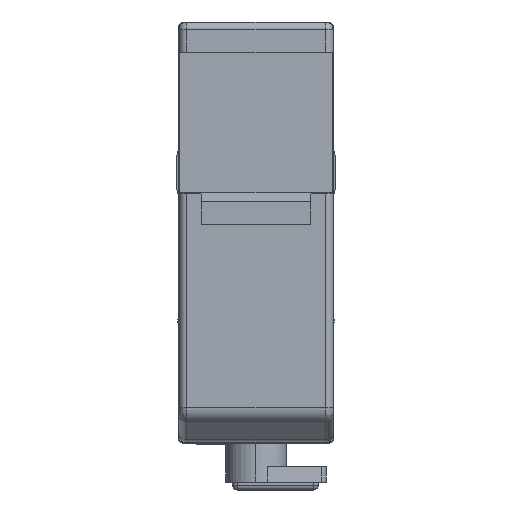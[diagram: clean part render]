
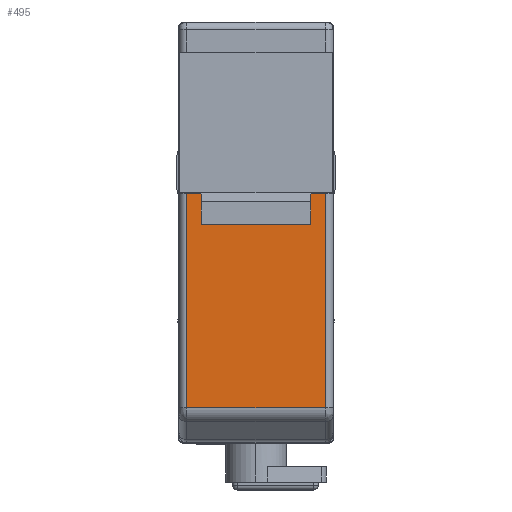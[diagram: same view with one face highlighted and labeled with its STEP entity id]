
A CAD part, top view. The second image highlights one B-rep face of the part: STEP entity #495.
In plain terms, the highlighted planar face has unit normal (0, 0, 1).
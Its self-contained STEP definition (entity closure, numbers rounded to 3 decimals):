
#495=ADVANCED_FACE('',(#2591),#2590,.F.);
#2590=PLANE('',#4830);
#2591=FACE_OUTER_BOUND('',#4831,.T.);
#4827=CARTESIAN_POINT('',(5.34,-26.283,27.4));
#4828=DIRECTION('',(0.,0.,-1.));
#4829=DIRECTION('',(-1.,0.,0.));
#4830=AXIS2_PLACEMENT_3D('',#4827,#4828,#4829);
#4831=EDGE_LOOP('',(#6453,#6454,#6455,#6456,#6457,#6458,#6459,#6460));
#6453=ORIENTED_EDGE('',*,*,#7498,.F.);
#6454=ORIENTED_EDGE('',*,*,#7505,.T.);
#6455=ORIENTED_EDGE('',*,*,#7506,.T.);
#6456=ORIENTED_EDGE('',*,*,#7507,.T.);
#6457=ORIENTED_EDGE('',*,*,#7490,.F.);
#6458=ORIENTED_EDGE('',*,*,#7426,.F.);
#6459=ORIENTED_EDGE('',*,*,#7435,.F.);
#6460=ORIENTED_EDGE('',*,*,#7428,.T.);
#7426=EDGE_CURVE('',#10656,#10641,#10663,.T.);
#7428=EDGE_CURVE('',#10677,#10670,#10678,.T.);
#7435=EDGE_CURVE('',#10677,#10656,#10723,.T.);
#7490=EDGE_CURVE('',#10641,#11093,#11094,.T.);
#7498=EDGE_CURVE('',#11140,#10670,#11147,.T.);
#7505=EDGE_CURVE('',#11140,#11193,#11194,.T.);
#7506=EDGE_CURVE('',#11193,#11200,#11201,.T.);
#7507=EDGE_CURVE('',#11200,#11093,#11207,.T.);
#10641=VERTEX_POINT('',#14517);
#10656=VERTEX_POINT('',#14526);
#10663=LINE('',#14530,#14531);
#10670=VERTEX_POINT('',#14534);
#10677=VERTEX_POINT('',#14538);
#10678=LINE('',#14539,#14540);
#10723=LINE('',#14563,#14564);
#11093=VERTEX_POINT('',#14772);
#11094=LINE('',#14773,#14774);
#11140=VERTEX_POINT('',#14799);
#11147=LINE('',#14804,#14805);
#11193=VERTEX_POINT('',#14829);
#11194=LINE('',#14830,#14831);
#11200=VERTEX_POINT('',#14833);
#11201=LINE('',#14834,#14835);
#11207=LINE('',#14837,#14838);
#14517=CARTESIAN_POINT('',(4.,-11.,27.4));
#14526=CARTESIAN_POINT('',(4.,-9.5,27.4));
#14530=CARTESIAN_POINT('',(4.,-9.5,27.4));
#14531=VECTOR('',#14532,1.5);
#14532=DIRECTION('',(0.,-1.,0.));
#14534=CARTESIAN_POINT('',(-4.,-11.,27.4));
#14538=CARTESIAN_POINT('',(-4.,-9.5,27.4));
#14539=CARTESIAN_POINT('',(-4.,-9.5,27.4));
#14540=VECTOR('',#14541,1.5);
#14541=DIRECTION('',(0.,-1.,0.));
#14563=CARTESIAN_POINT('',(-4.,-9.5,27.4));
#14564=VECTOR('',#14565,8.);
#14565=DIRECTION('',(1.,0.,0.));
#14772=CARTESIAN_POINT('',(4.45,-11.,27.4));
#14773=CARTESIAN_POINT('',(4.,-11.,27.4));
#14774=VECTOR('',#14775,0.45);
#14775=DIRECTION('',(1.,0.,0.));
#14799=CARTESIAN_POINT('',(-4.45,-11.,27.4));
#14804=CARTESIAN_POINT('',(-4.45,-11.,27.4));
#14805=VECTOR('',#14806,0.45);
#14806=DIRECTION('',(1.,0.,0.));
#14829=CARTESIAN_POINT('',(-4.45,-24.758,27.4));
#14830=CARTESIAN_POINT('',(-4.45,-11.,27.4));
#14831=VECTOR('',#14832,13.758);
#14832=DIRECTION('',(0.,-1.,0.));
#14833=CARTESIAN_POINT('',(4.45,-24.758,27.4));
#14834=CARTESIAN_POINT('',(-4.45,-24.758,27.4));
#14835=VECTOR('',#14836,8.9);
#14836=DIRECTION('',(1.,0.,0.));
#14837=CARTESIAN_POINT('',(4.45,-24.758,27.4));
#14838=VECTOR('',#14839,13.758);
#14839=DIRECTION('',(0.,1.,0.));
